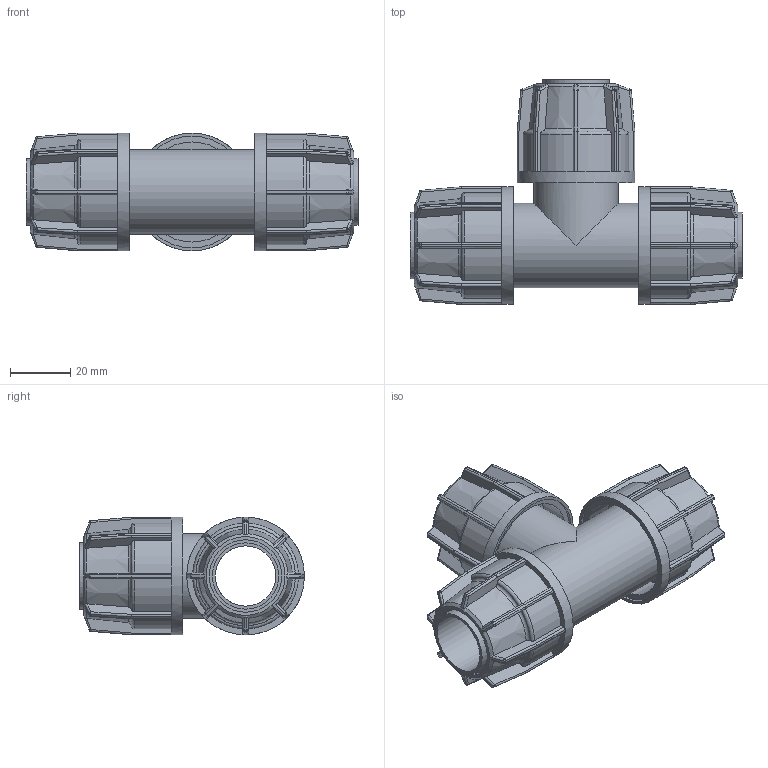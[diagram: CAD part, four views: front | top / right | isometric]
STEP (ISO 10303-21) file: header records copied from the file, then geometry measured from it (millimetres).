
FILE_DESCRIPTION(/* description */ ('PLASSON IRRIFIT TEE 20-20-20'),/* implementation_level */ '2;1');
FILE_NAME(/* name */ 'C:\Dropbox\KIMPROJECTS-Inventor\99-16-3568-Processing\Silver+MF ISRAEL\040407\040407020.ipt.stp',/* time_stamp */ '2018-04-09T12:59:45+03:00',/* author */ ('KIM'),/* organization */ (''),/* preprocessor_version */ 'ST-DEVELOPER v15.6',/* originating_system */ 'Autodesk Inventor 2015',/* authorisation */ '');
FILE_SCHEMA (('AUTOMOTIVE_DESIGN { 1 0 10303 214 3 1 1 }'));
Length unit declared in the file: millimetre
Products named in the file (1): 040407020
Bounding box: 110 x 74.5 x 39 mm (x, y, z)
Volume: 63192.7 mm3; surface area: 37941.5 mm2
Topology: 1 solids, 1 shells, 784 faces, 1880 edges, 1082 vertices
Faces by surface type: plane 378, cylinder 235, sphere 96, torus 51, cone 24
Full cylindrical faces by diameter (mm): 20 x2, 22 x3, 24 x3, 28 x2, 33.15 x3, 37.05 x3, 39 x3
Entity records: 23246 total; most frequent: CARTESIAN_POINT 6067, DIRECTION 3612, ORIENTED_EDGE 3578, EDGE_CURVE 1789, AXIS2_PLACEMENT_3D 1446, VERTEX_POINT 1045, EDGE_LOOP 826, FACE_OUTER_BOUND 784
